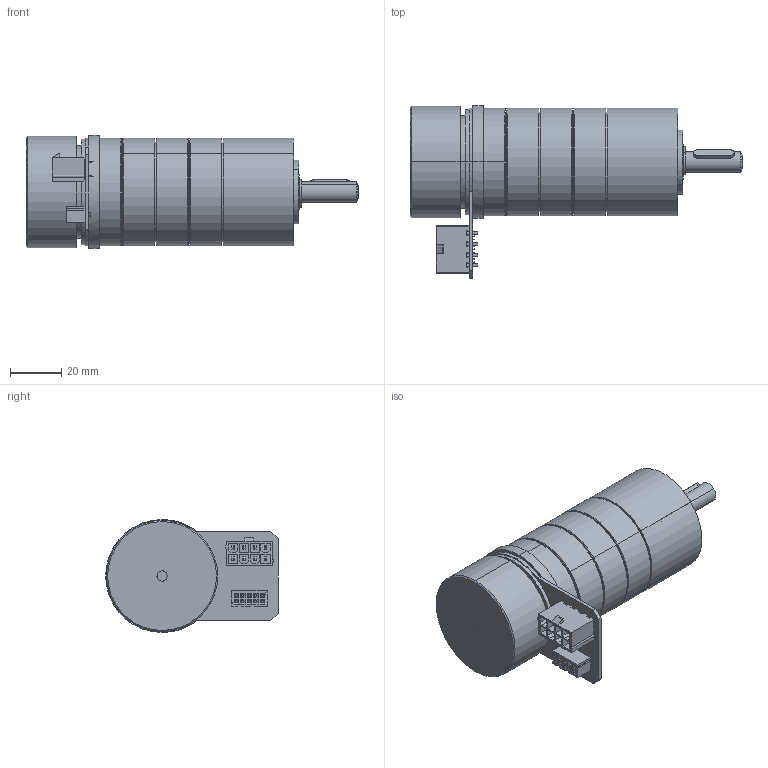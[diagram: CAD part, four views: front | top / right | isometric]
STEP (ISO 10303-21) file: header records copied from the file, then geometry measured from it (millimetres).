
FILE_DESCRIPTION (( 'STEP AP214' ), '1' );
FILE_NAME ('EC45Flat-70W + PM42-3 étages.STEP', '2014-11-18T14:08:45', ( '' ), ( '' ), 'SwSTEP 2.0', 'SolidWorks 2013', '' );
FILE_SCHEMA (( 'AUTOMOTIVE_DESIGN' ));
Length unit declared in the file: millimetre
Products named in the file (22): P8209_8007589_ZAHNKRANZ_Z46_10; 906350101; 039281083; EC45Flat-70W + PM42-3 étages; EC45FLAT-70W+mile; PM42 pour EC45Flat-70W_3 etages; Coté sortie^PM42 pour EC45Flat-70W; SCHRAUBE_1241978_17; 3X3X16_D6885A_11; D471_8X0_8_11; 8001316_ABTRIEB_LK4_KPL_10; 8001305_LAGERBOLZEN_11; VBZ_K7841_ABTRIEB_AF0_11; DIN998_PS_8X14X1_11; D625-608-2RS_10; 8007595_LAGERFLANSCH_10; Coté moteur^PM42 pour EC45Flat-70W; 1008602_Part; 8012556_MOTORRITZEL_Z17_1_3; 8001288_ANLAUFSCHEIBE_1ST_9; 8007606_DICHTRING_10; EC45Flat-70w+mile
Assembly tree (33 placements, depth 5):
  EC45Flat-70W + PM42-3 étages
    PM42 pour EC45Flat-70W_3 etages
      P8209_8007589_ZAHNKRANZ_Z46_10  x3
      Coté moteur^PM42 pour EC45Flat-70W
        8007606_DICHTRING_10
        8001288_ANLAUFSCHEIBE_1ST_9
        8012556_MOTORRITZEL_Z17_1_3
        1008602_Part
      Coté sortie^PM42 pour EC45Flat-70W
        8007595_LAGERFLANSCH_10
        D625-608-2RS_10  x2
        DIN998_PS_8X14X1_11  x2
        8001316_ABTRIEB_LK4_KPL_10
          VBZ_K7841_ABTRIEB_AF0_11
          8001305_LAGERBOLZEN_11  x3
        D471_8X0_8_11
        3X3X16_D6885A_11
        8007606_DICHTRING_10
        SCHRAUBE_1241978_17  x4
      8007606_DICHTRING_10  x2
    EC45Flat-70w+mile
      EC45FLAT-70W+mile
      039281083
      906350101
Bounding box: 129.4 x 67.3 x 44 mm (x, y, z)
Volume: 92160.3 mm3; surface area: 69676.5 mm2
Topology: 26 solids, 47 shells, 1767 faces, 4671 edges, 3056 vertices
Faces by surface type: plane 975, cylinder 638, cone 102, bspline 52
Entity records: 38760 total; most frequent: CARTESIAN_POINT 7959, DIRECTION 6253, ORIENTED_EDGE 6086, EDGE_CURVE 3063, VECTOR 2197, LINE 2197, AXIS2_PLACEMENT_3D 2028, VERTEX_POINT 2010
